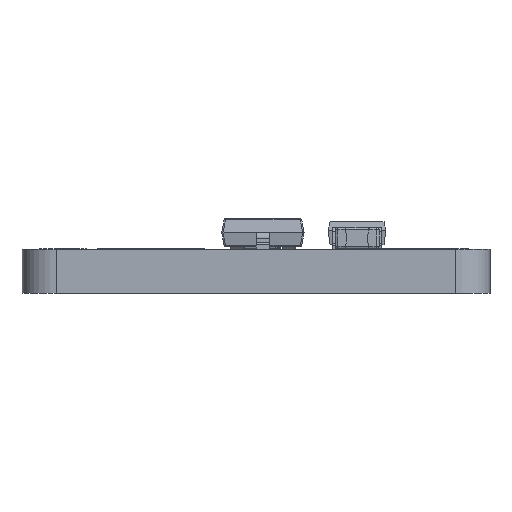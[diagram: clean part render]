
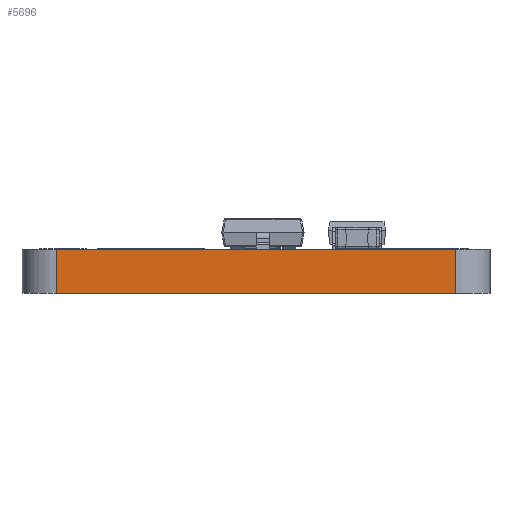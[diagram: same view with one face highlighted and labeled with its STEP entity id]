
A CAD part, front view. The second image highlights one B-rep face of the part: STEP entity #5696.
In plain terms, the highlighted planar face has unit normal (0, -1, 0).
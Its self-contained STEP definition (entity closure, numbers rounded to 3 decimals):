
#150 = VERTEX_POINT('',#151);
#151 = CARTESIAN_POINT('',(-7.25,-10.5,0.));
#158 = EDGE_CURVE('',#159,#150,#161,.T.);
#159 = VERTEX_POINT('',#160);
#160 = CARTESIAN_POINT('',(7.25,-10.5,0.));
#161 = LINE('',#162,#163);
#162 = CARTESIAN_POINT('',(7.25,-10.5,0.));
#163 = VECTOR('',#164,1.);
#164 = DIRECTION('',(-1.,0.,0.));
#5490 = VERTEX_POINT('',#5491);
#5491 = CARTESIAN_POINT('',(-7.25,-10.5,-1.6));
#5498 = EDGE_CURVE('',#5499,#5490,#5501,.T.);
#5499 = VERTEX_POINT('',#5500);
#5500 = CARTESIAN_POINT('',(7.25,-10.5,-1.6));
#5501 = LINE('',#5502,#5503);
#5502 = CARTESIAN_POINT('',(7.25,-10.5,-1.6));
#5503 = VECTOR('',#5504,1.);
#5504 = DIRECTION('',(-1.,0.,0.));
#5668 = EDGE_CURVE('',#150,#5490,#5669,.T.);
#5669 = LINE('',#5670,#5671);
#5670 = CARTESIAN_POINT('',(-7.25,-10.5,0.));
#5671 = VECTOR('',#5672,1.);
#5672 = DIRECTION('',(-0.,-0.,-1.));
#5696 = ADVANCED_FACE('',(#5697),#5708,.F.);
#5697 = FACE_BOUND('',#5698,.F.);
#5698 = EDGE_LOOP('',(#5699,#5705,#5706,#5707));
#5699 = ORIENTED_EDGE('',*,*,#5700,.T.);
#5700 = EDGE_CURVE('',#159,#5499,#5701,.T.);
#5701 = LINE('',#5702,#5703);
#5702 = CARTESIAN_POINT('',(7.25,-10.5,0.));
#5703 = VECTOR('',#5704,1.);
#5704 = DIRECTION('',(-0.,-0.,-1.));
#5705 = ORIENTED_EDGE('',*,*,#5498,.T.);
#5706 = ORIENTED_EDGE('',*,*,#5668,.F.);
#5707 = ORIENTED_EDGE('',*,*,#158,.F.);
#5708 = PLANE('',#5709);
#5709 = AXIS2_PLACEMENT_3D('',#5710,#5711,#5712);
#5710 = CARTESIAN_POINT('',(7.25,-10.5,0.));
#5711 = DIRECTION('',(0.,1.,0.));
#5712 = DIRECTION('',(-1.,0.,0.));
